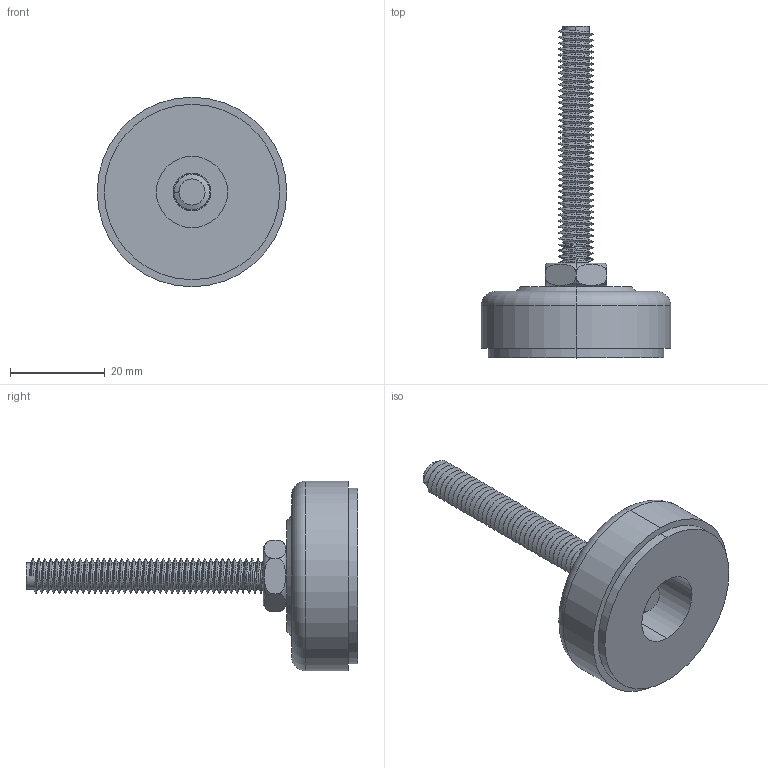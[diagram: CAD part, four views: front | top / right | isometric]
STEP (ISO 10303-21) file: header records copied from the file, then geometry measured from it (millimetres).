
FILE_DESCRIPTION (( 'STEP AP203' ), '1' );
FILE_NAME ('B408050.STEP', '2018-01-17T07:22:43', ( '' ), ( '' ), 'SwSTEP 2.0', 'SolidWorks 2014', '' );
FILE_SCHEMA (( 'CONFIG_CONTROL_DESIGN' ));
Length unit declared in the file: millimetre
Products named in the file (3): 螺桿M8XL50XP1.25; B408050; 底座BS40
Assembly tree (2 placements, depth 2):
  B408050
    底座BS40
    螺桿M8XL50XP1.25
Bounding box: 40 x 70 x 40 mm (x, y, z)
Volume: 17435.4 mm3; surface area: 7593.2 mm2
Topology: 2 solids, 2 shells, 133 faces, 366 edges, 242 vertices
Faces by surface type: cylinder 103, plane 18, torus 6, bspline 4, cone 2
Entity records: 9848 total; most frequent: CARTESIAN_POINT 6739, ORIENTED_EDGE 732, DIRECTION 466, EDGE_CURVE 366, VERTEX_POINT 242, AXIS2_PLACEMENT_3D 174, EDGE_LOOP 140, ADVANCED_FACE 133
